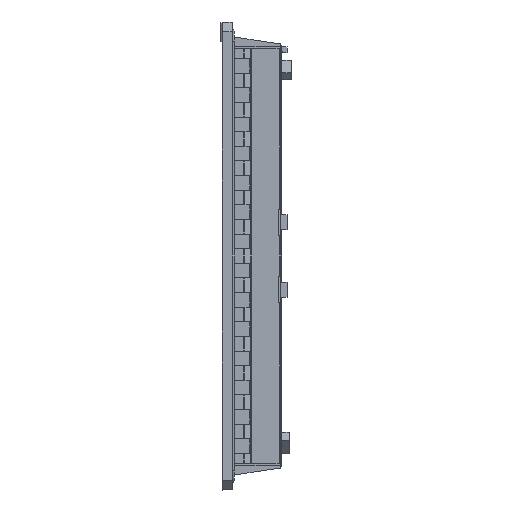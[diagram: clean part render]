
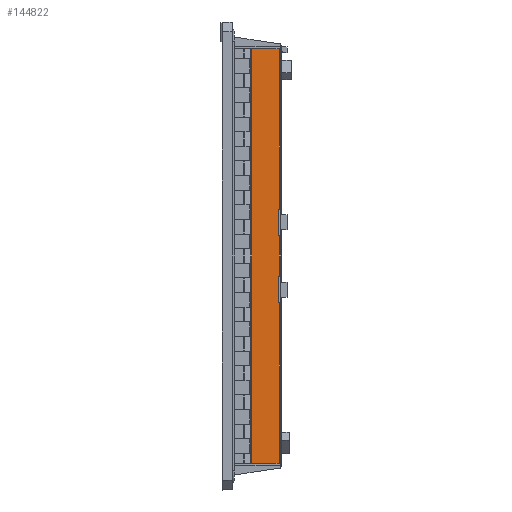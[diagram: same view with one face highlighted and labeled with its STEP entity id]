
A CAD part, left-side view. The second image highlights one B-rep face of the part: STEP entity #144822.
In plain terms, the highlighted planar face has unit normal (-1, 0, 0).
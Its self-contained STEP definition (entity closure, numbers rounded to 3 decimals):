
#2068 = LINE ( 'NONE', #56352, #135946 ) ;
#2778 = CARTESIAN_POINT ( 'NONE',  ( -145.25, 16.717, 141.75 ) ) ;
#3714 = ORIENTED_EDGE ( 'NONE', *, *, #102889, .T. ) ;
#4849 = VERTEX_POINT ( 'NONE', #127607 ) ;
#5693 = CARTESIAN_POINT ( 'NONE',  ( -145.25, -1.635, -32. ) ) ;
#7580 = ORIENTED_EDGE ( 'NONE', *, *, #128958, .F. ) ;
#8206 = DIRECTION ( 'NONE',  ( -1., 0., 0. ) ) ;
#8911 = DIRECTION ( 'NONE',  ( 0., 0., 1. ) ) ;
#9776 = VECTOR ( 'NONE', #33771, 1000. ) ;
#10074 = VECTOR ( 'NONE', #39256, 1000. ) ;
#10336 = ORIENTED_EDGE ( 'NONE', *, *, #142357, .F. ) ;
#10712 = CARTESIAN_POINT ( 'NONE',  ( -145.25, -1.635, 32. ) ) ;
#16159 = VECTOR ( 'NONE', #29417, 1000. ) ;
#17917 = VECTOR ( 'NONE', #143615, 1000. ) ;
#19371 = ORIENTED_EDGE ( 'NONE', *, *, #165694, .F. ) ;
#20617 = VERTEX_POINT ( 'NONE', #91571 ) ;
#25766 = LINE ( 'NONE', #80052, #77566 ) ;
#26828 = LINE ( 'NONE', #152241, #68317 ) ;
#29417 = DIRECTION ( 'NONE',  ( 0., 0., 1. ) ) ;
#30267 = EDGE_CURVE ( 'NONE', #165659, #71432, #175554, .T. ) ;
#30516 = ORIENTED_EDGE ( 'NONE', *, *, #31506, .F. ) ;
#31506 = EDGE_CURVE ( 'NONE', #77762, #87824, #2068, .T. ) ;
#31694 = CARTESIAN_POINT ( 'NONE',  ( -145.25, 16.717, -141.75 ) ) ;
#33354 = CARTESIAN_POINT ( 'NONE',  ( -145.25, -1.635, 14. ) ) ;
#33771 = DIRECTION ( 'NONE',  ( 0., 0., -1. ) ) ;
#33869 = LINE ( 'NONE', #48084, #144913 ) ;
#36630 = CARTESIAN_POINT ( 'NONE',  ( -145.25, 30., -141.75 ) ) ;
#36682 = CARTESIAN_POINT ( 'NONE',  ( -145.25, -3., 141.75 ) ) ;
#38233 = EDGE_CURVE ( 'NONE', #46550, #175383, #25766, .T. ) ;
#39256 = DIRECTION ( 'NONE',  ( 0., 0., 1. ) ) ;
#40333 = ORIENTED_EDGE ( 'NONE', *, *, #61398, .T. ) ;
#42786 = DIRECTION ( 'NONE',  ( 0., 1., 0. ) ) ;
#44515 = CARTESIAN_POINT ( 'NONE',  ( -145.25, -1.635, -14. ) ) ;
#46550 = VERTEX_POINT ( 'NONE', #155608 ) ;
#48084 = CARTESIAN_POINT ( 'NONE',  ( -145.25, 16.717, 141.75 ) ) ;
#56106 = LINE ( 'NONE', #110414, #16159 ) ;
#56352 = CARTESIAN_POINT ( 'NONE',  ( -145.25, -3., 141.75 ) ) ;
#61398 = EDGE_CURVE ( 'NONE', #71432, #87824, #56106, .T. ) ;
#63575 = AXIS2_PLACEMENT_3D ( 'NONE', #36682, #8206, #131937 ) ;
#68317 = VECTOR ( 'NONE', #42786, 1000. ) ;
#68525 = LINE ( 'NONE', #121086, #165776 ) ;
#71432 = VERTEX_POINT ( 'NONE', #96509 ) ;
#71973 = ORIENTED_EDGE ( 'NONE', *, *, #140768, .F. ) ;
#75764 = VERTEX_POINT ( 'NONE', #33354 ) ;
#77566 = VECTOR ( 'NONE', #136114, 1000. ) ;
#77762 = VERTEX_POINT ( 'NONE', #2778 ) ;
#80052 = CARTESIAN_POINT ( 'NONE',  ( -145.25, -2., 141.75 ) ) ;
#85074 = ORIENTED_EDGE ( 'NONE', *, *, #38233, .T. ) ;
#87824 = VERTEX_POINT ( 'NONE', #88765 ) ;
#88765 = CARTESIAN_POINT ( 'NONE',  ( -145.25, -2., 141.75 ) ) ;
#91571 = CARTESIAN_POINT ( 'NONE',  ( -145.25, -2., -32. ) ) ;
#91635 = LINE ( 'NONE', #144140, #113809 ) ;
#93392 = DIRECTION ( 'NONE',  ( 0., -1., 0. ) ) ;
#94628 = CARTESIAN_POINT ( 'NONE',  ( -145.25, -1.635, 32. ) ) ;
#96440 = ORIENTED_EDGE ( 'NONE', *, *, #138402, .T. ) ;
#96509 = CARTESIAN_POINT ( 'NONE',  ( -145.25, -2., 32. ) ) ;
#102889 = EDGE_CURVE ( 'NONE', #175383, #75764, #26828, .T. ) ;
#103183 = EDGE_CURVE ( 'NONE', #153406, #20617, #91635, .T. ) ;
#105229 = FACE_OUTER_BOUND ( 'NONE', #149908, .T. ) ;
#105325 = CARTESIAN_POINT ( 'NONE',  ( -145.25, -2., 141.75 ) ) ;
#110414 = CARTESIAN_POINT ( 'NONE',  ( -145.25, -2., 141.75 ) ) ;
#111188 = EDGE_CURVE ( 'NONE', #75764, #165659, #162044, .T. ) ;
#112942 = VECTOR ( 'NONE', #148896, 1000. ) ;
#113809 = VECTOR ( 'NONE', #93392, 1000. ) ;
#114290 = CARTESIAN_POINT ( 'NONE',  ( -145.25, -2., -141.75 ) ) ;
#118276 = ORIENTED_EDGE ( 'NONE', *, *, #30267, .T. ) ;
#118503 = CARTESIAN_POINT ( 'NONE',  ( -145.25, -2., 14. ) ) ;
#120381 = ORIENTED_EDGE ( 'NONE', *, *, #111188, .T. ) ;
#121086 = CARTESIAN_POINT ( 'NONE',  ( -145.25, -1.635, -14. ) ) ;
#122843 = DIRECTION ( 'NONE',  ( 0., 1., 0. ) ) ;
#127607 = CARTESIAN_POINT ( 'NONE',  ( -145.25, -1.635, -14. ) ) ;
#128958 = EDGE_CURVE ( 'NONE', #148963, #77762, #33869, .T. ) ;
#129012 = LINE ( 'NONE', #44515, #9776 ) ;
#130267 = LINE ( 'NONE', #105325, #17917 ) ;
#131937 = DIRECTION ( 'NONE',  ( 0., -1., 0. ) ) ;
#135946 = VECTOR ( 'NONE', #154847, 1000. ) ;
#136114 = DIRECTION ( 'NONE',  ( 0., 0., 1. ) ) ;
#138402 = EDGE_CURVE ( 'NONE', #168028, #20617, #130267, .T. ) ;
#140768 = EDGE_CURVE ( 'NONE', #168028, #148963, #157667, .T. ) ;
#142357 = EDGE_CURVE ( 'NONE', #4849, #153406, #129012, .T. ) ;
#142568 = DIRECTION ( 'NONE',  ( 0., 1., 0. ) ) ;
#143615 = DIRECTION ( 'NONE',  ( 0., 0., 1. ) ) ;
#144140 = CARTESIAN_POINT ( 'NONE',  ( -145.25, -1.635, -32. ) ) ;
#144822 = ADVANCED_FACE ( 'NONE', ( #105229 ), #146163, .T. ) ;
#144913 = VECTOR ( 'NONE', #8911, 1000. ) ;
#145866 = VECTOR ( 'NONE', #142568, 1000. ) ;
#146163 = PLANE ( 'NONE',  #63575 ) ;
#146933 = ORIENTED_EDGE ( 'NONE', *, *, #103183, .F. ) ;
#148896 = DIRECTION ( 'NONE',  ( 0., -1., 0. ) ) ;
#148963 = VERTEX_POINT ( 'NONE', #31694 ) ;
#149908 = EDGE_LOOP ( 'NONE', ( #85074, #3714, #120381, #118276, #40333, #30516, #7580, #71973, #96440, #146933, #10336, #19371 ) ) ;
#152241 = CARTESIAN_POINT ( 'NONE',  ( -145.25, -1.635, 14. ) ) ;
#153406 = VERTEX_POINT ( 'NONE', #5693 ) ;
#154847 = DIRECTION ( 'NONE',  ( 0., -1., 0. ) ) ;
#155608 = CARTESIAN_POINT ( 'NONE',  ( -145.25, -2., -14. ) ) ;
#157667 = LINE ( 'NONE', #36630, #145866 ) ;
#162044 = LINE ( 'NONE', #162935, #10074 ) ;
#162935 = CARTESIAN_POINT ( 'NONE',  ( -145.25, -1.635, 14. ) ) ;
#165659 = VERTEX_POINT ( 'NONE', #10712 ) ;
#165694 = EDGE_CURVE ( 'NONE', #46550, #4849, #68525, .T. ) ;
#165776 = VECTOR ( 'NONE', #122843, 1000. ) ;
#168028 = VERTEX_POINT ( 'NONE', #114290 ) ;
#175383 = VERTEX_POINT ( 'NONE', #118503 ) ;
#175554 = LINE ( 'NONE', #94628, #112942 ) ;
